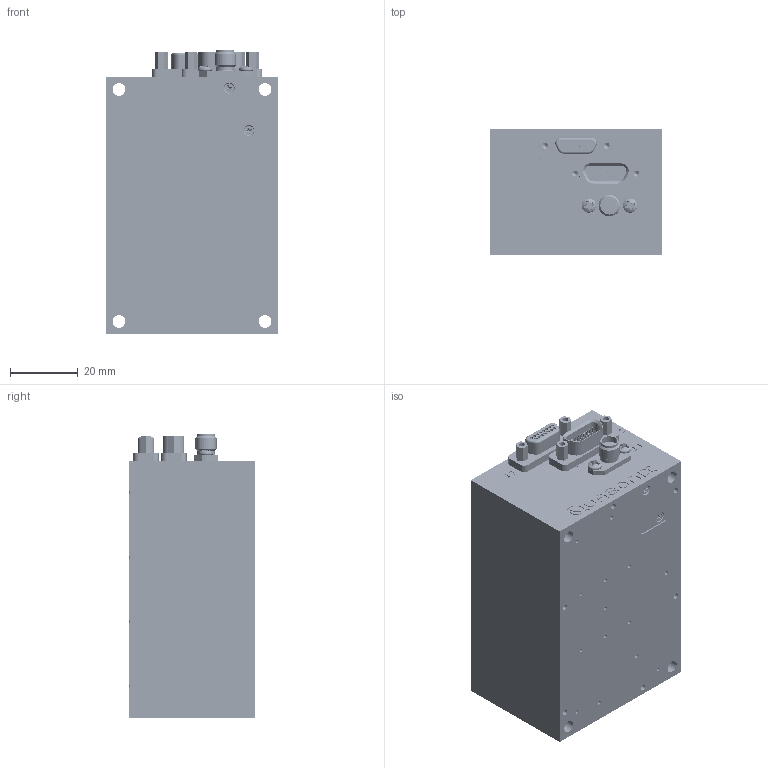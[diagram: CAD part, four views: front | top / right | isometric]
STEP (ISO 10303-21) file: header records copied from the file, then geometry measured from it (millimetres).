
FILE_DESCRIPTION (( 'STEP AP203' ), '1' );
FILE_NAME ('08AA_10-25-13.STEP', '2013-10-25T18:22:09', ( 'Quasonix' ), ( '' ), 'SwSTEP 2.0', 'SolidWorks 2012', '' );
FILE_SCHEMA (( 'CONFIG_CONTROL_DESIGN' ));
Length unit declared in the file: inch
Products named in the file (1): 08AA_10-25-13
Bounding box: 50.8 x 37.15 x 84.14 mm (x, y, z)
Volume: 55133.6 mm3; surface area: 73258.9 mm2
Topology: 42 solids, 42 shells, 7301 faces, 19179 edges, 12112 vertices
Faces by surface type: cylinder 3306, cone 2084, plane 1661, torus 123, bspline 121, sphere 6
Entity records: 253111 total; most frequent: CARTESIAN_POINT 77853, ORIENTED_EDGE 38266, DIRECTION 34546, EDGE_CURVE 19133, AXIS2_PLACEMENT_3D 12683, VERTEX_POINT 12112, VECTOR 9180, LINE 9180
